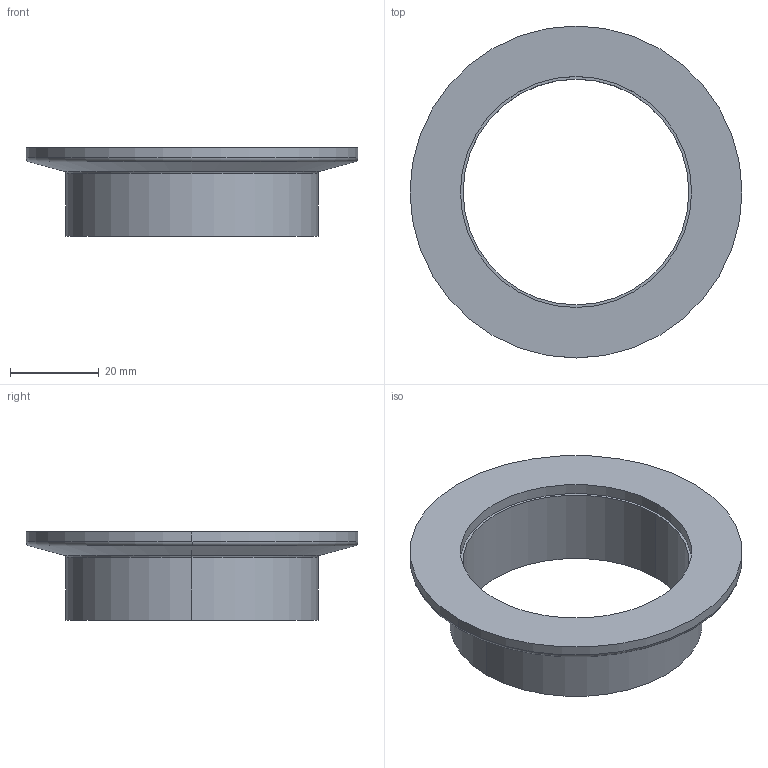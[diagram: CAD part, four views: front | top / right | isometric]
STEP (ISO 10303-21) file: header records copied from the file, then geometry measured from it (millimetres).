
FILE_DESCRIPTION (( 'STEP AP214' ), '1' );
FILE_NAME ('W3KF50.STEP', '2019-03-23T09:28:48', ( '' ), ( '' ), 'SwSTEP 2.0', 'SolidWorks 2018', '' );
FILE_SCHEMA (( 'AUTOMOTIVE_DESIGN' ));
Length unit declared in the file: millimetre
Products named in the file (1): W3KF50
Bounding box: 75 x 75 x 20 mm (x, y, z)
Volume: 17662.6 mm3; surface area: 11271.3 mm2
Topology: 1 solids, 1 shells, 17 faces, 34 edges, 20 vertices
Faces by surface type: cylinder 8, torus 4, plane 3, cone 2
Entity records: 486 total; most frequent: DIRECTION 94, CARTESIAN_POINT 72, ORIENTED_EDGE 68, AXIS2_PLACEMENT_3D 42, EDGE_CURVE 34, CIRCLE 24, EDGE_LOOP 20, VERTEX_POINT 20
